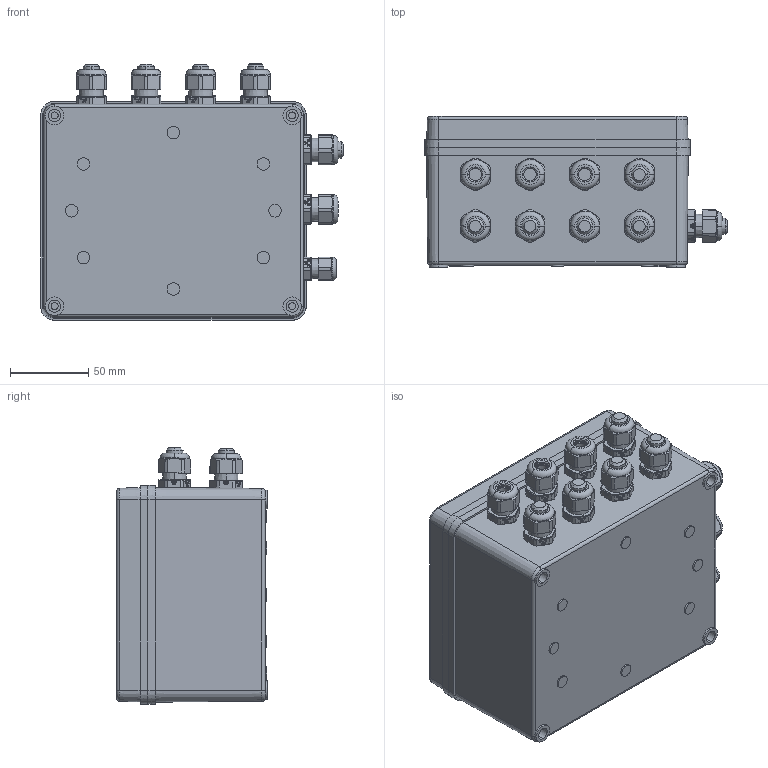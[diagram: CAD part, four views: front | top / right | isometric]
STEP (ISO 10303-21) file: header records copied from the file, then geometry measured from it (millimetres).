
FILE_DESCRIPTION((''),'1');
FILE_NAME('ETLB_housing-8_PG9.step','2022-04-22T10:09:38',(''),(''),'','','');
FILE_SCHEMA(('AUTOMOTIVE_DESIGN { 1 0 10303 214 1 1 1 1 }'));
Products named in the file (22): ETLB housing-8_PG9; ETLB cover 01; ETLB part 02; ETLB screw 01; ETLB cable gland 01; ETLB cable gland 02; ETLB seal 01; ETLB nut 01; ETLB cable gland 04; ETLB cable gland 05; ETLB seal 02; ETLB nut 02; ETLB cable gland 07; ETLB cable gland 08
Assembly tree (56 placements, depth 3):
  ETLB housing-8_PG9
    ETLB cover 01
    ETLB part 02
    ETLB screw 01  x4
    ETLB cable gland 01
      ETLB cable gland 02
      ETLB seal 01
      ETLB nut 01
    ETLB cable gland 04
      ETLB cable gland 05
      ETLB seal 02
      ETLB nut 02
    ETLB cable gland 07
      ETLB cable gland 05
      ETLB seal 02
      ETLB nut 02
      ETLB cable gland 08
    ETLB cable gland 07
      ETLB cable gland 05
      ETLB seal 02
      ETLB nut 02
      ETLB cable gland 08
    ETLB cable gland 07
      ETLB cable gland 05
      ETLB seal 02
      ETLB nut 02
      ETLB cable gland 08
    ETLB cable gland 07
      ETLB cable gland 05
      ETLB seal 02
      ETLB nut 02
      ETLB cable gland 08
    ETLB cable gland 07
      ETLB cable gland 05
      ETLB seal 02
      ETLB nut 02
      ETLB cable gland 08
    ETLB cable gland 07
      ETLB cable gland 05
      ETLB seal 02
      ETLB nut 02
      ETLB cable gland 08
    ETLB cable gland 04
      ETLB cable gland 05
      ETLB seal 02
      ETLB nut 02
    ETLB cable gland 04
      ETLB cable gland 05
      ETLB seal 02
      ETLB nut 02
    ETLB cable gland 04
      ETLB cable gland 05
      ETLB seal 02
      ETLB nut 02
Bounding box: 193.8 x 96.5 x 164.08 mm (x, y, z)
Volume: 384948.8 mm3; surface area: 272974.7 mm2
Topology: 45 solids, 56 shells, 6491 faces, 17016 edges, 11114 vertices
Faces by surface type: plane 3565, cylinder 2342, cone 334, torus 230, bspline 20
Entity records: 50460 total; most frequent: CARTESIAN_POINT 9237, DIRECTION 8757, ORIENTED_EDGE 8242, EDGE_CURVE 4143, AXIS2_PLACEMENT_3D 3021, VERTEX_POINT 2716, LINE 2715, VECTOR 2715
